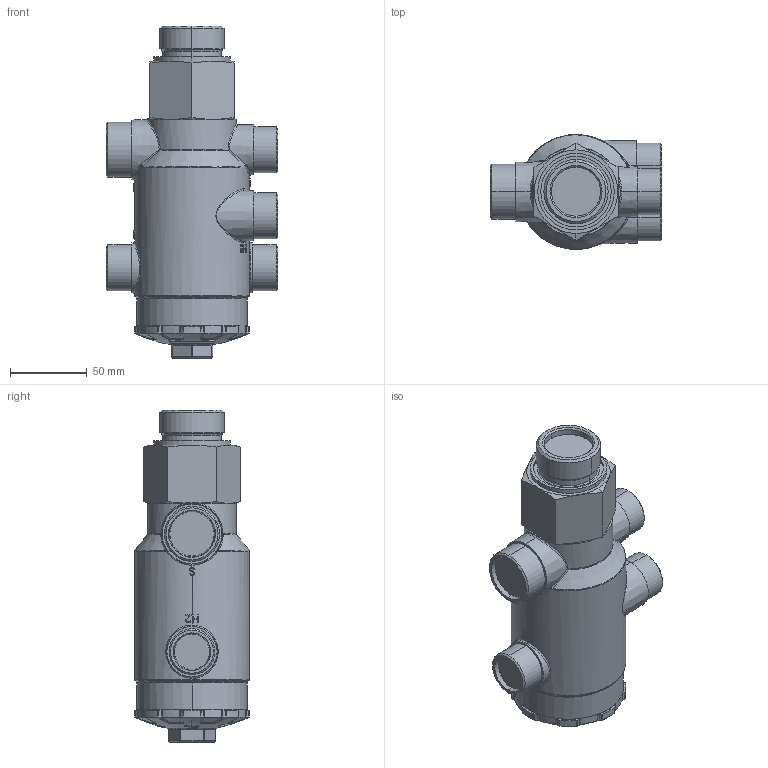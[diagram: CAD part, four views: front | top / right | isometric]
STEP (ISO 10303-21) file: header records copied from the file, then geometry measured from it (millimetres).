
FILE_DESCRIPTION((''),'2;1');
FILE_NAME('MFE_200','2024-08-30T07:47:41',('a.heinl'),(''),'CREO PARAMETRIC BY PTC INC, 2023254','CREO PARAMETRIC BY PTC INC, 2023254','');
FILE_SCHEMA(('AUTOMOTIVE_DESIGN { 1 0 10303 214 1 1 1 1 }'));
Products named in the file (1): MFE_200
Bounding box: 112 x 75 x 216.94 mm (x, y, z)
Volume: 804071.7 mm3; surface area: 70342.3 mm2
Topology: 1 solids, 4 shells, 958 faces, 2510 edges, 1595 vertices
Faces by surface type: plane 411, bspline 260, cylinder 112, cone 78, torus 70, extrusion 15, sphere 12
Entity records: 56825 total; most frequent: CARTESIAN_POINT 22166, ORIENTED_EDGE 4998, PRESENTATION_STYLE_ASSIGNMENT 3473, DIRECTION 3132, STYLED_ITEM 2515, CURVE_STYLE 2514, EDGE_CURVE 2499, VERTEX_POINT 1595
